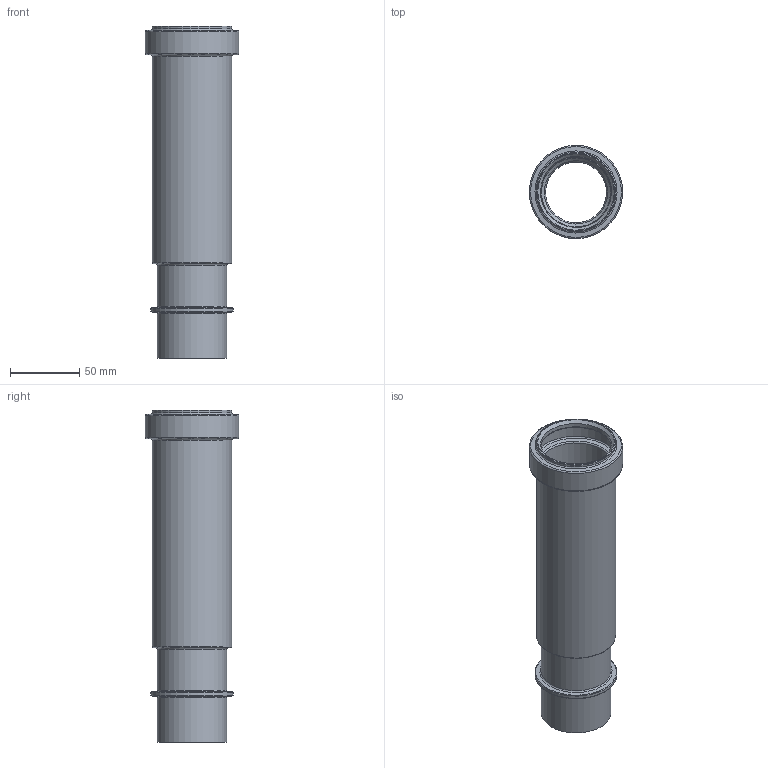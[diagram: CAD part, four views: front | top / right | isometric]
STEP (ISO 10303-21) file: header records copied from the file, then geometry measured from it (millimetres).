
FILE_DESCRIPTION(/* description */ (''),/* implementation_level */ '2;1');
FILE_NAME(/* name */ 'C:\Planerdaten\Export PLA\361.700.16.1\stp\361700.stp',/* time_stamp */ '2020-07-07T08:48:58+02:00',/* author */ ('JANAN'),/* organization */ (''),/* preprocessor_version */ 'ST-DEVELOPER v16.13',/* originating_system */ 'Autodesk Inventor 2018',/* authorisation */ '');
FILE_SCHEMA (('AUTOMOTIVE_DESIGN { 1 0 10303 214 3 1 1 }'));
Length unit declared in the file: millimetre
Products named in the file (1): Langmuffe m/Doppelbund PE-HD d50
Bounding box: 67.38 x 67.38 x 239.65 mm (x, y, z)
Volume: 134177.1 mm3; surface area: 85019 mm2
Topology: 1 solids, 1 shells, 38 faces, 85 edges, 49 vertices
Faces by surface type: torus 17, cylinder 10, cone 9, plane 2
Full cylindrical faces by diameter (mm): 43.95 x1, 50.25 x2, 50.9 x1, 51.15 x1, 57.2 x1, 57.45 x1, 59.25 x1, 61.1 x1, 67.4 x1
Entity records: 839 total; most frequent: DIRECTION 154, CARTESIAN_POINT 115, AXIS2_PLACEMENT_3D 77, EDGE_LOOP 76, ORIENTED_EDGE 76, STYLED_ITEM 39, FACE_BOUND 38, FACE_OUTER_BOUND 38
